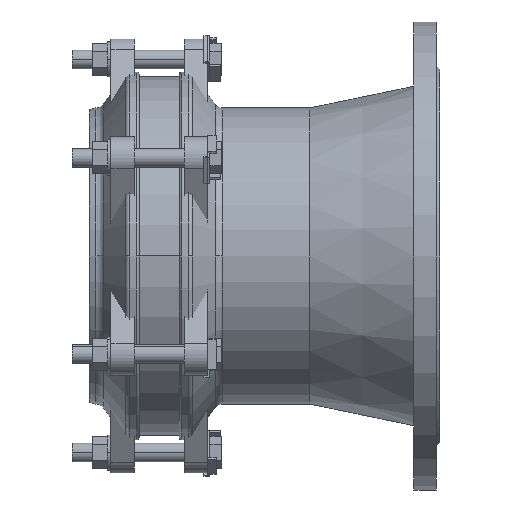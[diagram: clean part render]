
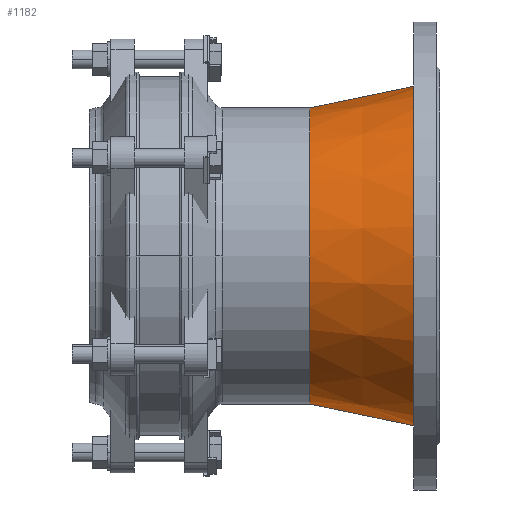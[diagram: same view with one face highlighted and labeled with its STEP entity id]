
A CAD part, front view. The second image highlights one B-rep face of the part: STEP entity #1182.
In plain terms, the highlighted conical face has half-angle 11.743 degrees and reference radius 135.75 mm.
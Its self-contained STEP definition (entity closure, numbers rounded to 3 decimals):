
#1182=ADVANCED_FACE('',(#2412),#2413,.T.);
#2412=FACE_OUTER_BOUND('',#4114,.T.);
#2413=CONICAL_SURFACE('',#4115,135.75,0.205);
#4114=EDGE_LOOP('',(#5907,#5908,#5909,#5910));
#4115=AXIS2_PLACEMENT_3D('',#5911,#5912,#5913);
#5907=ORIENTED_EDGE('',*,*,#9288,.T.);
#5908=ORIENTED_EDGE('',*,*,#9289,.F.);
#5909=ORIENTED_EDGE('',*,*,#9290,.T.);
#5910=ORIENTED_EDGE('',*,*,#9291,.F.);
#5911=CARTESIAN_POINT('',(-249.,-160.22,92.499));
#5912=DIRECTION('',(1.0,-0.0,0.));
#5913=DIRECTION('',(0.,0.0,-1.0));
#9288=EDGE_CURVE('',#10997,#10998,#10999,.T.);
#9289=EDGE_CURVE('',#11000,#10998,#11001,.T.);
#9290=EDGE_CURVE('',#11000,#11002,#11003,.T.);
#9291=EDGE_CURVE('',#10997,#11002,#11004,.T.);
#10997=VERTEX_POINT('',#13280);
#10998=VERTEX_POINT('',#13281);
#10999=LINE('',#13282,#13283);
#11000=VERTEX_POINT('',#13284);
#11001=CIRCLE('',#13285,145.0);
#11002=VERTEX_POINT('',#13286);
#11003=LINE('',#13287,#13288);
#11004=CIRCLE('',#13289,126.5);
#13280=CARTESIAN_POINT('',(-293.5,-160.22,-34.001));
#13281=CARTESIAN_POINT('',(-204.5,-160.22,-52.501));
#13282=CARTESIAN_POINT('',(-249.,-160.22,-43.251));
#13283=VECTOR('',#15546,1.0);
#13284=CARTESIAN_POINT('',(-204.5,-160.22,237.499));
#13285=AXIS2_PLACEMENT_3D('',#15547,#15548,#15549);
#13286=CARTESIAN_POINT('',(-293.5,-160.22,218.999));
#13287=CARTESIAN_POINT('',(-249.,-160.22,228.249));
#13288=VECTOR('',#15550,1.0);
#13289=AXIS2_PLACEMENT_3D('',#15551,#15552,#15553);
#15546=DIRECTION('',(0.979,0.,-0.204));
#15547=CARTESIAN_POINT('',(-204.5,-160.22,92.499));
#15548=DIRECTION('',(1.0,0.0,0.));
#15549=DIRECTION('',(0.,0.0,-1.0));
#15550=DIRECTION('',(-0.979,0.,-0.204));
#15551=CARTESIAN_POINT('',(-293.5,-160.22,92.499));
#15552=DIRECTION('',(-1.0,0.0,0.));
#15553=DIRECTION('',(0.,0.0,-1.0));
